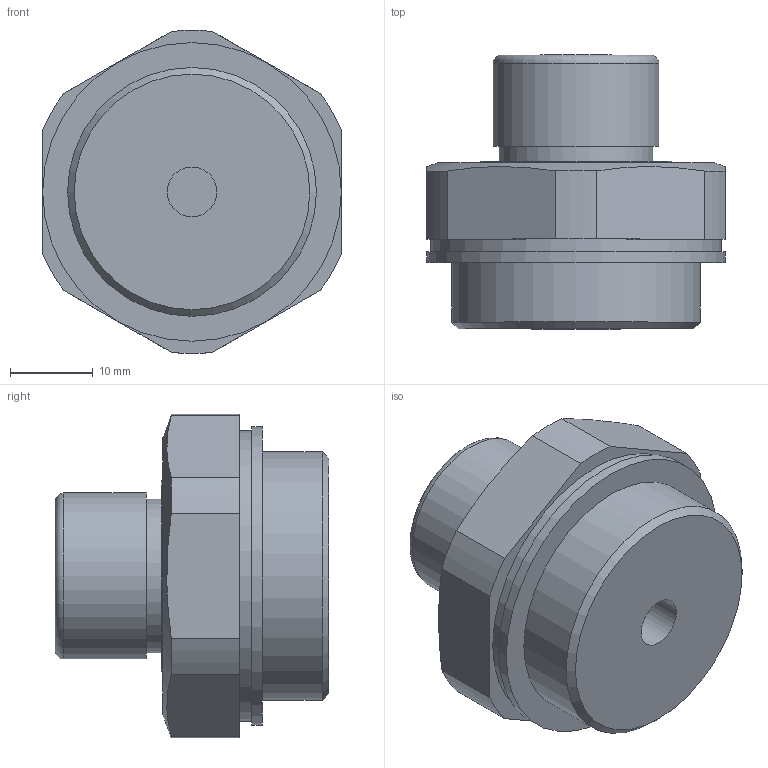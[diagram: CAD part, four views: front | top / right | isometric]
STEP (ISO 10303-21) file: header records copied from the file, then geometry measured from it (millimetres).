
FILE_DESCRIPTION( ( 'STEP AP203' ), '1' );
FILE_NAME( 'C:/Temp/Ganter_Step_05_03_2020/data/3_5/gn882/Breather filters GN 882-M30x1,5-MS-M.stp', '2020-03-12T13:42:43', ( 'License CC BY-ND 4.0' ), ( 'CADENAS' ), ' ', 'PARTsolutions', ' ' );
FILE_SCHEMA( ( 'CONFIG_CONTROL_DESIGN' ) );
Length unit declared in the file: millimetre
Products named in the file (1): _Breather filters GN 882-M30x1,5-MS-M
Bounding box: 36 x 33 x 38.98 mm (x, y, z)
Volume: 22035.9 mm3; surface area: 5554.7 mm2
Topology: 1 solids, 1 shells, 33 faces, 67 edges, 44 vertices
Faces by surface type: plane 16, cylinder 14, cone 2, torus 1
Full cylindrical faces by diameter (mm): 6 x1, 18.5 x1, 19 x1, 20 x1, 23 x1, 30 x1, 35 x1, 36 x1
Entity records: 894 total; most frequent: CARTESIAN_POINT 182, DIRECTION 148, ORIENTED_EDGE 110, AXIS2_PLACEMENT_3D 65, EDGE_CURVE 55, EDGE_LOOP 52, VERTEX_POINT 43, FACE_OUTER_BOUND 42
